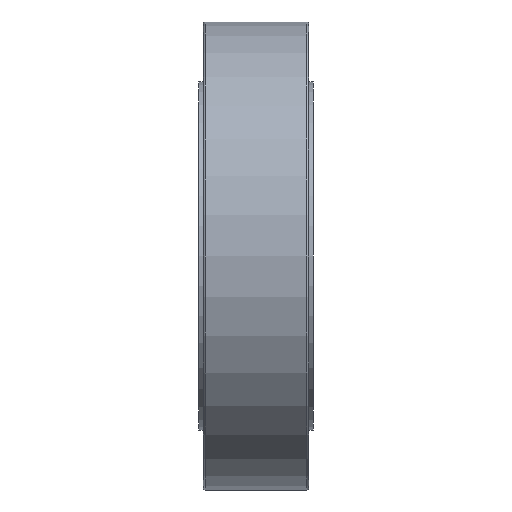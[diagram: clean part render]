
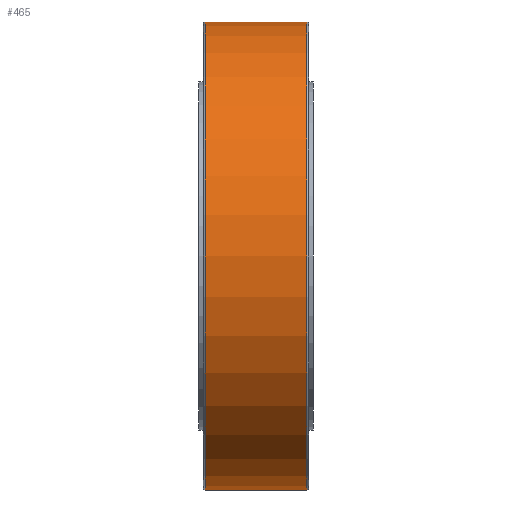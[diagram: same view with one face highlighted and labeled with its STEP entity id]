
A CAD part, front view. The second image highlights one B-rep face of the part: STEP entity #465.
In plain terms, the highlighted cylindrical face has radius 142.5 mm (diameter 285 mm), a partial arc.
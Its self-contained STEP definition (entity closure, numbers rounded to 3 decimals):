
#161 = VERTEX_POINT ( 'NONE', #1208 ) ;
#164 = VERTEX_POINT ( 'NONE', #1469 ) ;
#175 = VERTEX_POINT ( 'NONE', #1453 ) ;
#182 = VERTEX_POINT ( 'NONE', #1447 ) ;
#434 = EDGE_LOOP ( 'NONE', ( #480, #468, #464, #513 ) ) ;
#464 = ORIENTED_EDGE ( 'NONE', *, *, #3482, .T. ) ;
#465 = ADVANCED_FACE ( 'NONE', ( #2000 ), #1980, .T. ) ;
#466 = EDGE_CURVE ( 'NONE', #182, #175, #2029, .T. ) ;
#468 = ORIENTED_EDGE ( 'NONE', *, *, #527, .T. ) ;
#480 = ORIENTED_EDGE ( 'NONE', *, *, #3425, .F. ) ;
#513 = ORIENTED_EDGE ( 'NONE', *, *, #466, .T. ) ;
#527 = EDGE_CURVE ( 'NONE', #164, #161, #2122, .T. ) ;
#1208 = CARTESIAN_POINT ( 'NONE',  ( 31., 0., 142.5 ) ) ;
#1447 = CARTESIAN_POINT ( 'NONE',  ( -31., 0., 142.5 ) ) ;
#1453 = CARTESIAN_POINT ( 'NONE',  ( -31., 0., -142.5 ) ) ;
#1469 = CARTESIAN_POINT ( 'NONE',  ( 31., 0., -142.5 ) ) ;
#1980 = CYLINDRICAL_SURFACE ( 'NONE', #2035, 142.5 ) ;
#1987 = AXIS2_PLACEMENT_3D ( 'NONE', #2028, #2027, #2026 ) ;
#2000 = FACE_OUTER_BOUND ( 'NONE', #434, .T. ) ;
#2026 = DIRECTION ( 'NONE',  ( 0., 0., -1. ) ) ;
#2027 = DIRECTION ( 'NONE',  ( 1., 0., 0. ) ) ;
#2028 = CARTESIAN_POINT ( 'NONE',  ( -31., 0., 0. ) ) ;
#2029 = CIRCLE ( 'NONE', #1987, 142.5 ) ;
#2032 = DIRECTION ( 'NONE',  ( 0., 0., 1. ) ) ;
#2033 = DIRECTION ( 'NONE',  ( -1., 0., 0. ) ) ;
#2034 = CARTESIAN_POINT ( 'NONE',  ( -41.122, 0., 0. ) ) ;
#2035 = AXIS2_PLACEMENT_3D ( 'NONE', #2034, #2033, #2032 ) ;
#2116 = DIRECTION ( 'NONE',  ( 0., 0., 1. ) ) ;
#2117 = DIRECTION ( 'NONE',  ( -1., 0., 0. ) ) ;
#2118 = CARTESIAN_POINT ( 'NONE',  ( 31., 0., 0. ) ) ;
#2119 = AXIS2_PLACEMENT_3D ( 'NONE', #2118, #2117, #2116 ) ;
#2122 = CIRCLE ( 'NONE', #2119, 142.5 ) ;
#3059 = DIRECTION ( 'NONE',  ( -1., 0., 0. ) ) ;
#3060 = VECTOR ( 'NONE', #3059, 1000. ) ;
#3061 = CARTESIAN_POINT ( 'NONE',  ( -41.122, 0., -142.5 ) ) ;
#3062 = LINE ( 'NONE', #3061, #3060 ) ;
#3212 = DIRECTION ( 'NONE',  ( -1., 0., 0. ) ) ;
#3213 = VECTOR ( 'NONE', #3212, 1000. ) ;
#3214 = CARTESIAN_POINT ( 'NONE',  ( -41.122, 0., 142.5 ) ) ;
#3215 = LINE ( 'NONE', #3214, #3213 ) ;
#3425 = EDGE_CURVE ( 'NONE', #164, #175, #3062, .T. ) ;
#3482 = EDGE_CURVE ( 'NONE', #161, #182, #3215, .T. ) ;
